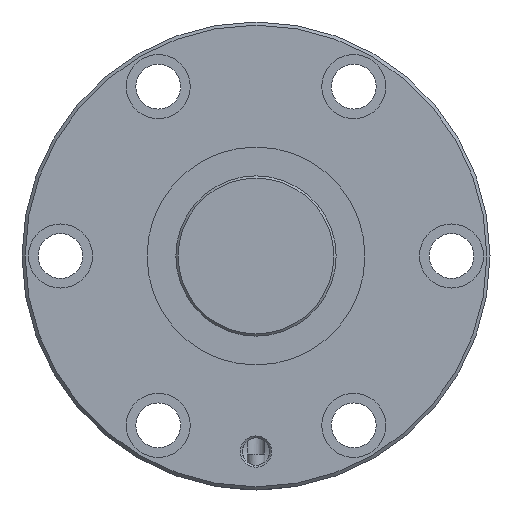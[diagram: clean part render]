
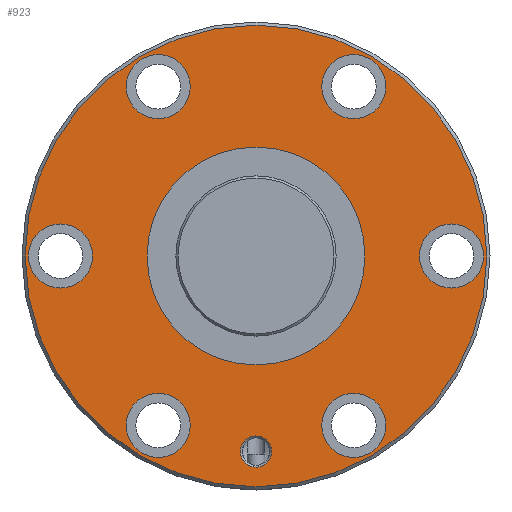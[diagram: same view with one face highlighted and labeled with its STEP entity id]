
A CAD part, left-side view. The second image highlights one B-rep face of the part: STEP entity #923.
In plain terms, the highlighted planar face has unit normal (-1, 0, 0).
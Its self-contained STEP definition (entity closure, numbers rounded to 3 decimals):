
#154=ORIENTED_EDGE('',*,*,#357,.T.);
#155=ORIENTED_EDGE('',*,*,#358,.T.);
#156=ORIENTED_EDGE('',*,*,#359,.T.);
#157=ORIENTED_EDGE('',*,*,#360,.T.);
#158=ORIENTED_EDGE('',*,*,#361,.T.);
#159=ORIENTED_EDGE('',*,*,#362,.T.);
#160=ORIENTED_EDGE('',*,*,#363,.T.);
#161=ORIENTED_EDGE('',*,*,#364,.T.);
#162=ORIENTED_EDGE('',*,*,#356,.F.);
#356=EDGE_CURVE('',#461,#461,#545,.T.);
#357=EDGE_CURVE('',#462,#462,#546,.T.);
#358=EDGE_CURVE('',#463,#463,#547,.F.);
#359=EDGE_CURVE('',#464,#464,#548,.T.);
#360=EDGE_CURVE('',#465,#465,#549,.T.);
#361=EDGE_CURVE('',#466,#466,#550,.T.);
#362=EDGE_CURVE('',#467,#467,#551,.T.);
#363=EDGE_CURVE('',#468,#468,#552,.T.);
#364=EDGE_CURVE('',#469,#469,#553,.T.);
#461=VERTEX_POINT('',#1553);
#462=VERTEX_POINT('',#1556);
#463=VERTEX_POINT('',#1558);
#464=VERTEX_POINT('',#1560);
#465=VERTEX_POINT('',#1562);
#466=VERTEX_POINT('',#1564);
#467=VERTEX_POINT('',#1566);
#468=VERTEX_POINT('',#1568);
#469=VERTEX_POINT('',#1570);
#545=CIRCLE('',#1030,72.);
#546=CIRCLE('',#1032,34.);
#547=CIRCLE('',#1033,10.);
#548=CIRCLE('',#1034,4.864);
#549=CIRCLE('',#1035,10.);
#550=CIRCLE('',#1036,10.);
#551=CIRCLE('',#1037,10.);
#552=CIRCLE('',#1038,10.);
#553=CIRCLE('',#1039,10.);
#626=EDGE_LOOP('',(#154));
#627=EDGE_LOOP('',(#155));
#628=EDGE_LOOP('',(#156));
#629=EDGE_LOOP('',(#157));
#630=EDGE_LOOP('',(#158));
#631=EDGE_LOOP('',(#159));
#632=EDGE_LOOP('',(#160));
#633=EDGE_LOOP('',(#161));
#634=EDGE_LOOP('',(#162));
#766=FACE_BOUND('',#626,.T.);
#767=FACE_BOUND('',#627,.T.);
#768=FACE_BOUND('',#628,.T.);
#769=FACE_BOUND('',#629,.T.);
#770=FACE_BOUND('',#630,.T.);
#771=FACE_BOUND('',#631,.T.);
#772=FACE_BOUND('',#632,.T.);
#773=FACE_BOUND('',#633,.T.);
#774=FACE_BOUND('',#634,.T.);
#888=PLANE('',#1031);
#923=ADVANCED_FACE('',(#766,#767,#768,#769,#770,#771,#772,#773,#774),#888,
 .T.);
#1030=AXIS2_PLACEMENT_3D('',#1552,#1198,#1199);
#1031=AXIS2_PLACEMENT_3D('',#1554,#1200,#1201);
#1032=AXIS2_PLACEMENT_3D('',#1555,#1202,#1203);
#1033=AXIS2_PLACEMENT_3D('',#1557,#1204,#1205);
#1034=AXIS2_PLACEMENT_3D('',#1559,#1206,#1207);
#1035=AXIS2_PLACEMENT_3D('',#1561,#1208,#1209);
#1036=AXIS2_PLACEMENT_3D('',#1563,#1210,#1211);
#1037=AXIS2_PLACEMENT_3D('',#1565,#1212,#1213);
#1038=AXIS2_PLACEMENT_3D('',#1567,#1214,#1215);
#1039=AXIS2_PLACEMENT_3D('',#1569,#1216,#1217);
#1198=DIRECTION('',(1.,0.,0.));
#1199=DIRECTION('',(0.,0.,-1.));
#1200=DIRECTION('',(-1.,0.,0.));
#1201=DIRECTION('',(0.,0.,1.));
#1202=DIRECTION('',(1.,0.,0.));
#1203=DIRECTION('',(0.,0.,-1.));
#1204=DIRECTION('',(-1.,0.,0.));
#1205=DIRECTION('',(0.,0.,1.));
#1206=DIRECTION('',(1.,0.,0.));
#1207=DIRECTION('',(0.,0.,-1.));
#1208=DIRECTION('',(1.,0.,0.));
#1209=DIRECTION('',(0.,0.,-1.));
#1210=DIRECTION('',(1.,0.,0.));
#1211=DIRECTION('',(0.,0.,-1.));
#1212=DIRECTION('',(1.,0.,0.));
#1213=DIRECTION('',(0.,0.,-1.));
#1214=DIRECTION('',(1.,0.,0.));
#1215=DIRECTION('',(0.,0.,-1.));
#1216=DIRECTION('',(1.,0.,0.));
#1217=DIRECTION('',(0.,0.,-1.));
#1552=CARTESIAN_POINT('',(0.,0.,0.));
#1553=CARTESIAN_POINT('',(0.,0.,-72.));
#1554=CARTESIAN_POINT('',(0.,72.,0.));
#1555=CARTESIAN_POINT('',(0.,0.,0.));
#1556=CARTESIAN_POINT('',(0.,0.,-34.));
#1557=CARTESIAN_POINT('',(0.,61.,0.));
#1558=CARTESIAN_POINT('',(0.,61.,10.));
#1559=CARTESIAN_POINT('',(0.,0.,-61.));
#1560=CARTESIAN_POINT('',(0.,0.,-65.864));
#1561=CARTESIAN_POINT('',(0.,-61.,0.));
#1562=CARTESIAN_POINT('',(0.,-61.,-10.));
#1563=CARTESIAN_POINT('',(0.,30.5,52.828));
#1564=CARTESIAN_POINT('',(0.,30.5,42.828));
#1565=CARTESIAN_POINT('',(0.,-30.5,-52.828));
#1566=CARTESIAN_POINT('',(0.,-30.5,-62.828));
#1567=CARTESIAN_POINT('',(0.,-30.5,52.828));
#1568=CARTESIAN_POINT('',(0.,-30.5,42.828));
#1569=CARTESIAN_POINT('',(0.,30.5,-52.828));
#1570=CARTESIAN_POINT('',(0.,30.5,-62.828));
